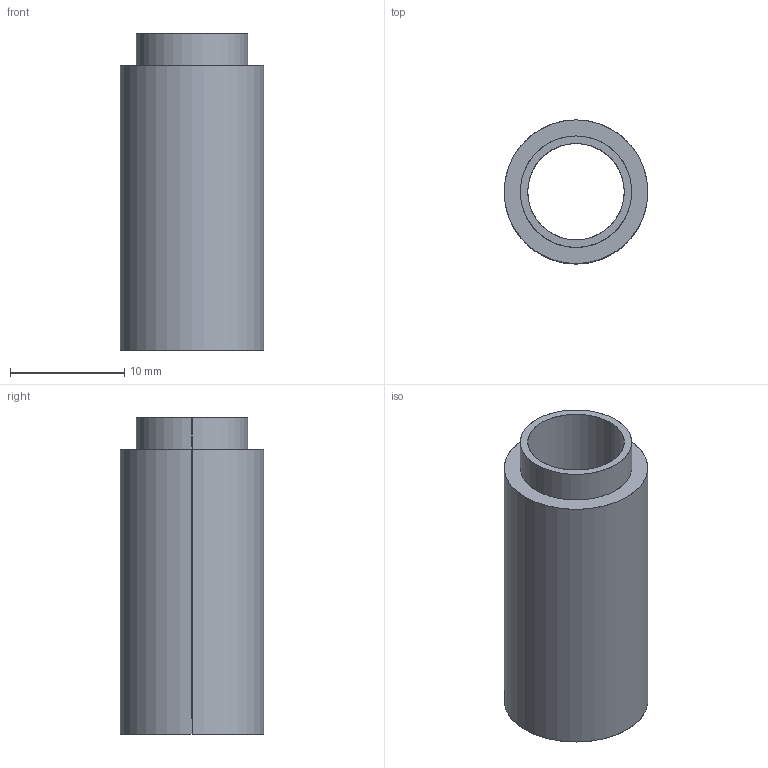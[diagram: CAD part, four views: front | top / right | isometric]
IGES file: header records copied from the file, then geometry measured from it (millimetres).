
Start section: SolidWorks IGES file using analytic representation for surfaces
Global section: file name: \\PSSILO\catalogs\CONTENTCENTRAL\GUIDE ROD PLUG\Cache\0AD48812-1519-408D-B9A4-A76478950A7D.IGS; native system: SolidWorks 2009; preprocessor: SolidWorks 2009; author: partstream; date: 090716.113601; units: inch
Bounding box: 12.57 x 12.57 x 27.69 mm (x, y, z)
Surface area: 2151 mm2 (no closed solid volume)
Topology: 0 solids, 0 shells, 12 faces, 288 edges, 288 vertices
Faces by surface type: revolution 8, bspline 4
